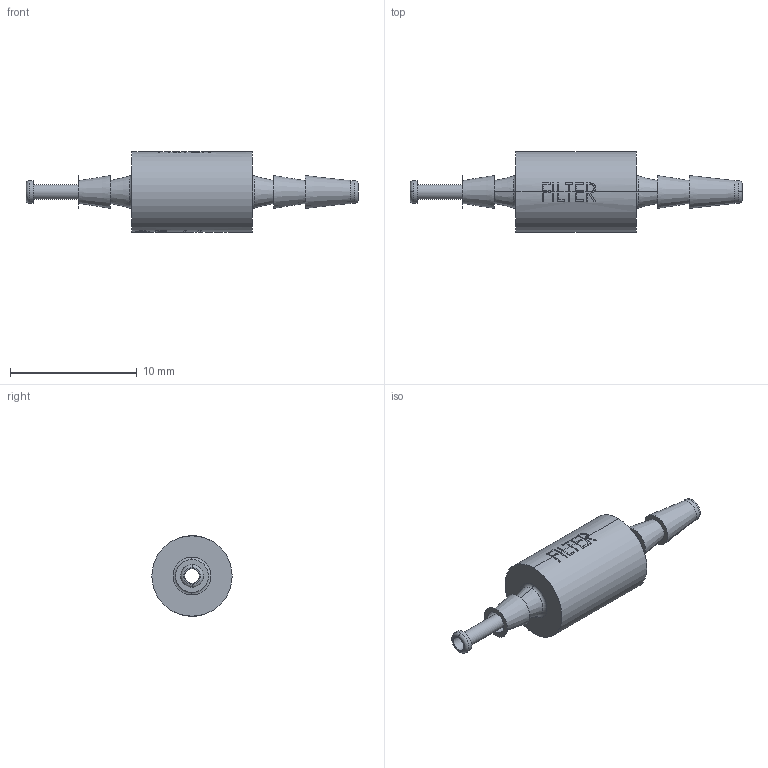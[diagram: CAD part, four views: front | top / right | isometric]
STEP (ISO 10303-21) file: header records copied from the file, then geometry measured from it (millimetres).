
FILE_DESCRIPTION(/* description */ ('SolidWorks IGES file using NURBS representation for surfaces '),/* implementation_level */ '2;1');
FILE_NAME(/* name */ 'K:\Normteile INVENTOR\Air-Logic\Filters\F-950-25-B80.IGS.ipt.stp',/* time_stamp */ '2020-05-27T10:39:38+02:00',/* author */ ('amarsh'),/* organization */ (''),/* preprocessor_version */ 'ST-DEVELOPER v18',/* originating_system */ 'Autodesk Inventor 2020',/* authorisation */ '');
FILE_SCHEMA (('AUTOMOTIVE_DESIGN { 1 0 10303 214 3 1 1 }'));
Length unit declared in the file: millimetre
Products named in the file (1): F-950-25-B80.IGS
Bounding box: 26.22 x 6.35 x 6.35 mm (x, y, z)
Volume: 335.3 mm3; surface area: 467.9 mm2
Topology: 1 solids, 1 shells, 166 faces, 477 edges, 320 vertices
Faces by surface type: plane 75, bspline 49, cylinder 26, torus 8, cone 8
Full cylindrical faces by diameter (mm): 1.17 x1, 1.8 x2
Entity records: 9102 total; most frequent: CARTESIAN_POINT 4869, ORIENTED_EDGE 954, DIRECTION 772, EDGE_CURVE 477, VERTEX_POINT 320, AXIS2_PLACEMENT_3D 275, LINE 222, VECTOR 222
